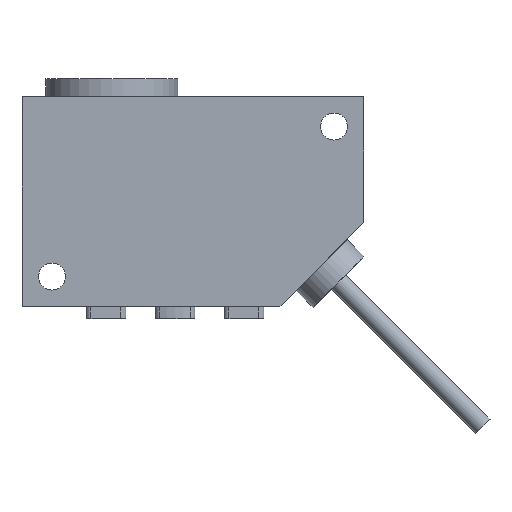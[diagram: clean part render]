
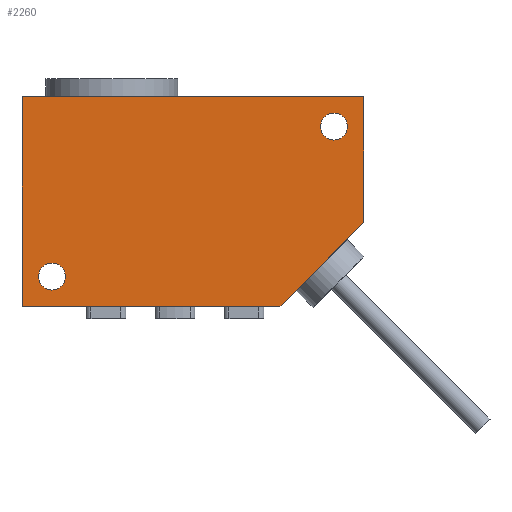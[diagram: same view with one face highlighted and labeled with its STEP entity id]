
A CAD part, left-side view. The second image highlights one B-rep face of the part: STEP entity #2260.
In plain terms, the highlighted planar face has unit normal (-1, 0, 0).
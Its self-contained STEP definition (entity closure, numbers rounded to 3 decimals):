
#284 = VERTEX_POINT ( 'NONE', #857 ) ;
#286 = VERTEX_POINT ( 'NONE', #856 ) ;
#288 = EDGE_CURVE ( 'NONE', #286, #284, #855, .T. ) ;
#852 = DIRECTION ( 'NONE',  ( 0., 0., 1. ) ) ;
#853 = VECTOR ( 'NONE', #852, 1000. ) ;
#854 = CARTESIAN_POINT ( 'NONE',  ( -12., 35., 0. ) ) ;
#855 = LINE ( 'NONE', #854, #853 ) ;
#856 = CARTESIAN_POINT ( 'NONE',  ( -12., 35., -43. ) ) ;
#857 = CARTESIAN_POINT ( 'NONE',  ( -12., 35., 0. ) ) ;
#1075 = CARTESIAN_POINT ( 'NONE',  ( -12., 21., -57. ) ) ;
#1134 = DIRECTION ( 'NONE',  ( 0., -0.707, -0.707 ) ) ;
#1135 = VECTOR ( 'NONE', #1134, 1000. ) ;
#1136 = CARTESIAN_POINT ( 'NONE',  ( -12., 56.5, -21.5 ) ) ;
#1137 = LINE ( 'NONE', #1136, #1135 ) ;
#1149 = DIRECTION ( 'NONE',  ( 0., 0., -1. ) ) ;
#1150 = VECTOR ( 'NONE', #1149, 1000. ) ;
#1151 = CARTESIAN_POINT ( 'NONE',  ( -12., 0., 0. ) ) ;
#1152 = LINE ( 'NONE', #1151, #1150 ) ;
#1156 = DIRECTION ( 'NONE',  ( 0., 0., 1. ) ) ;
#1157 = DIRECTION ( 'NONE',  ( -1., 0., 0. ) ) ;
#1158 = CARTESIAN_POINT ( 'NONE',  ( -12., 35., 0. ) ) ;
#1159 = AXIS2_PLACEMENT_3D ( 'NONE', #1158, #1157, #1156 ) ;
#1160 = PLANE ( 'NONE',  #1159 ) ;
#1161 = FACE_BOUND ( 'NONE', #2264, .T. ) ;
#1162 = FACE_BOUND ( 'NONE', #2262, .T. ) ;
#1163 = FACE_OUTER_BOUND ( 'NONE', #2256, .T. ) ;
#1164 = DIRECTION ( 'NONE',  ( 0., 0., -1. ) ) ;
#1165 = DIRECTION ( 'NONE',  ( 1., 0., 0. ) ) ;
#1166 = CARTESIAN_POINT ( 'NONE',  ( -12., 30., -5. ) ) ;
#1167 = AXIS2_PLACEMENT_3D ( 'NONE', #1166, #1165, #1164 ) ;
#1168 = CIRCLE ( 'NONE', #1167, 2.25 ) ;
#1174 = DIRECTION ( 'NONE',  ( 0., -1., 0. ) ) ;
#1175 = VECTOR ( 'NONE', #1174, 1000. ) ;
#1176 = CARTESIAN_POINT ( 'NONE',  ( -12., 0., 0. ) ) ;
#1177 = LINE ( 'NONE', #1176, #1175 ) ;
#1178 = DIRECTION ( 'NONE',  ( 0., 0., -1. ) ) ;
#1179 = DIRECTION ( 'NONE',  ( 1., 0., 0. ) ) ;
#1180 = CARTESIAN_POINT ( 'NONE',  ( -12., 5., -52. ) ) ;
#1181 = AXIS2_PLACEMENT_3D ( 'NONE', #1180, #1179, #1178 ) ;
#1182 = CIRCLE ( 'NONE', #1181, 2.25 ) ;
#1188 = CARTESIAN_POINT ( 'NONE',  ( -12., 0., -57. ) ) ;
#1189 = CARTESIAN_POINT ( 'NONE',  ( -12., 0., 0. ) ) ;
#1204 = DIRECTION ( 'NONE',  ( 0., 1., 0. ) ) ;
#1205 = VECTOR ( 'NONE', #1204, 1000. ) ;
#1206 = CARTESIAN_POINT ( 'NONE',  ( -12., 0., -57. ) ) ;
#1207 = LINE ( 'NONE', #1206, #1205 ) ;
#1722 = CARTESIAN_POINT ( 'NONE',  ( -12., 5., -54.25 ) ) ;
#1723 = CARTESIAN_POINT ( 'NONE',  ( -12., 5., -49.75 ) ) ;
#1724 = DIRECTION ( 'NONE',  ( 0., 0., -1. ) ) ;
#1725 = DIRECTION ( 'NONE',  ( 1., 0., 0. ) ) ;
#1726 = CARTESIAN_POINT ( 'NONE',  ( -12., 5., -52. ) ) ;
#1727 = AXIS2_PLACEMENT_3D ( 'NONE', #1726, #1725, #1724 ) ;
#1728 = CIRCLE ( 'NONE', #1727, 2.25 ) ;
#1825 = CARTESIAN_POINT ( 'NONE',  ( -12., 30., -7.25 ) ) ;
#1826 = DIRECTION ( 'NONE',  ( 0., 0., -1. ) ) ;
#1827 = DIRECTION ( 'NONE',  ( 1., 0., 0. ) ) ;
#1828 = CARTESIAN_POINT ( 'NONE',  ( -12., 30., -5. ) ) ;
#1829 = AXIS2_PLACEMENT_3D ( 'NONE', #1828, #1827, #1826 ) ;
#1830 = CIRCLE ( 'NONE', #1829, 2.25 ) ;
#1932 = CARTESIAN_POINT ( 'NONE',  ( -12., 30., -2.75 ) ) ;
#2195 = VERTEX_POINT ( 'NONE', #1075 ) ;
#2204 = ORIENTED_EDGE ( 'NONE', *, *, #2605, .T. ) ;
#2229 = EDGE_CURVE ( 'NONE', #2285, #2286, #1152, .T. ) ;
#2239 = EDGE_CURVE ( 'NONE', #286, #2195, #1137, .T. ) ;
#2247 = EDGE_CURVE ( 'NONE', #2608, #2606, #1182, .T. ) ;
#2248 = ORIENTED_EDGE ( 'NONE', *, *, #2247, .T. ) ;
#2249 = ORIENTED_EDGE ( 'NONE', *, *, #288, .F. ) ;
#2250 = ORIENTED_EDGE ( 'NONE', *, *, #2251, .F. ) ;
#2251 = EDGE_CURVE ( 'NONE', #284, #2285, #1177, .T. ) ;
#2253 = ORIENTED_EDGE ( 'NONE', *, *, #2254, .T. ) ;
#2254 = EDGE_CURVE ( 'NONE', #2658, #2711, #1168, .T. ) ;
#2256 = EDGE_LOOP ( 'NONE', ( #2249, #2258, #2259, #2261, #2250 ) ) ;
#2258 = ORIENTED_EDGE ( 'NONE', *, *, #2239, .T. ) ;
#2259 = ORIENTED_EDGE ( 'NONE', *, *, #2277, .F. ) ;
#2260 = ADVANCED_FACE ( 'NONE', ( #1163, #1162, #1161 ), #1160, .T. ) ;
#2261 = ORIENTED_EDGE ( 'NONE', *, *, #2229, .F. ) ;
#2262 = EDGE_LOOP ( 'NONE', ( #2253, #2263 ) ) ;
#2263 = ORIENTED_EDGE ( 'NONE', *, *, #2656, .T. ) ;
#2264 = EDGE_LOOP ( 'NONE', ( #2248, #2204 ) ) ;
#2277 = EDGE_CURVE ( 'NONE', #2286, #2195, #1207, .T. ) ;
#2285 = VERTEX_POINT ( 'NONE', #1189 ) ;
#2286 = VERTEX_POINT ( 'NONE', #1188 ) ;
#2605 = EDGE_CURVE ( 'NONE', #2606, #2608, #1728, .T. ) ;
#2606 = VERTEX_POINT ( 'NONE', #1723 ) ;
#2608 = VERTEX_POINT ( 'NONE', #1722 ) ;
#2656 = EDGE_CURVE ( 'NONE', #2711, #2658, #1830, .T. ) ;
#2658 = VERTEX_POINT ( 'NONE', #1825 ) ;
#2711 = VERTEX_POINT ( 'NONE', #1932 ) ;
